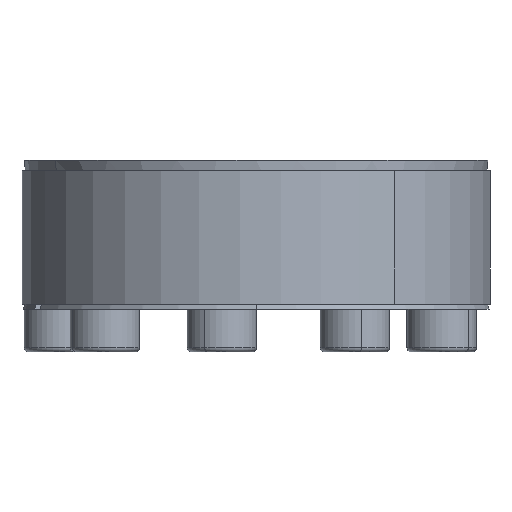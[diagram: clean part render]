
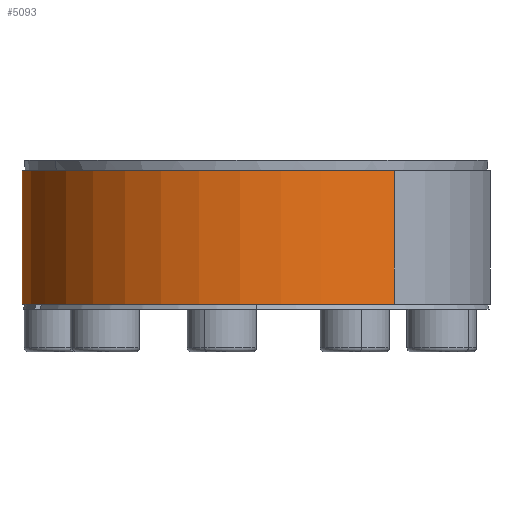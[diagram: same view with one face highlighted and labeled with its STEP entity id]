
A CAD part, left-side view. The second image highlights one B-rep face of the part: STEP entity #5093.
In plain terms, the highlighted cylindrical face has radius 43.985 mm (diameter 87.97 mm), a partial arc.
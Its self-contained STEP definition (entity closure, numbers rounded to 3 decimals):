
#69 = CARTESIAN_POINT ( 'NONE',  ( 0., 0., 25.969 ) ) ;
#129 = VECTOR ( 'NONE', #13361, 1000. ) ;
#149 = CARTESIAN_POINT ( 'NONE',  ( -35.585, -25.854, 0.969 ) ) ;
#624 = ORIENTED_EDGE ( 'NONE', *, *, #8753, .T. ) ;
#889 = CARTESIAN_POINT ( 'NONE',  ( 0., 0., 0.969 ) ) ;
#1120 = DIRECTION ( 'NONE',  ( -0.809, -0.588, 0. ) ) ;
#1819 = CARTESIAN_POINT ( 'NONE',  ( 0., 0., 25.969 ) ) ;
#1968 = DIRECTION ( 'NONE',  ( -0.809, -0.588, 0. ) ) ;
#2849 = DIRECTION ( 'NONE',  ( 0., 0., -1. ) ) ;
#2897 = ORIENTED_EDGE ( 'NONE', *, *, #11431, .T. ) ;
#2962 = LINE ( 'NONE', #4804, #129 ) ;
#3389 = AXIS2_PLACEMENT_3D ( 'NONE', #1819, #2849, #9306 ) ;
#4186 = EDGE_LOOP ( 'NONE', ( #7267, #12284, #2897, #624 ) ) ;
#4418 = LINE ( 'NONE', #12298, #9766 ) ;
#4804 = CARTESIAN_POINT ( 'NONE',  ( 35.585, 25.854, 25.969 ) ) ;
#5093 = ADVANCED_FACE ( 'NONE', ( #6633 ), #13822, .T. ) ;
#6633 = FACE_OUTER_BOUND ( 'NONE', #4186, .T. ) ;
#7267 = ORIENTED_EDGE ( 'NONE', *, *, #13165, .F. ) ;
#7448 = AXIS2_PLACEMENT_3D ( 'NONE', #69, #7543, #1120 ) ;
#7543 = DIRECTION ( 'NONE',  ( 0., 0., 1. ) ) ;
#7633 = CARTESIAN_POINT ( 'NONE',  ( 35.585, 25.854, 0.969 ) ) ;
#7949 = AXIS2_PLACEMENT_3D ( 'NONE', #889, #8372, #1968 ) ;
#8372 = DIRECTION ( 'NONE',  ( 0., 0., 1. ) ) ;
#8753 = EDGE_CURVE ( 'NONE', #12120, #8959, #12095, .T. ) ;
#8959 = VERTEX_POINT ( 'NONE', #149 ) ;
#9122 = VERTEX_POINT ( 'NONE', #12217 ) ;
#9306 = DIRECTION ( 'NONE',  ( 0.809, 0.588, 0. ) ) ;
#9360 = CARTESIAN_POINT ( 'NONE',  ( 35.585, 25.854, 25.969 ) ) ;
#9766 = VECTOR ( 'NONE', #10196, 1000. ) ;
#9980 = CIRCLE ( 'NONE', #7448, 43.985 ) ;
#10196 = DIRECTION ( 'NONE',  ( 0., 0., -1. ) ) ;
#11431 = EDGE_CURVE ( 'NONE', #13300, #12120, #2962, .T. ) ;
#12095 = CIRCLE ( 'NONE', #7949, 43.985 ) ;
#12120 = VERTEX_POINT ( 'NONE', #7633 ) ;
#12217 = CARTESIAN_POINT ( 'NONE',  ( -35.585, -25.854, 25.969 ) ) ;
#12284 = ORIENTED_EDGE ( 'NONE', *, *, #13399, .F. ) ;
#12298 = CARTESIAN_POINT ( 'NONE',  ( -35.585, -25.854, 25.969 ) ) ;
#13165 = EDGE_CURVE ( 'NONE', #9122, #8959, #4418, .T. ) ;
#13300 = VERTEX_POINT ( 'NONE', #9360 ) ;
#13361 = DIRECTION ( 'NONE',  ( 0., 0., -1. ) ) ;
#13399 = EDGE_CURVE ( 'NONE', #13300, #9122, #9980, .T. ) ;
#13822 = CYLINDRICAL_SURFACE ( 'NONE', #3389, 43.985 ) ;
